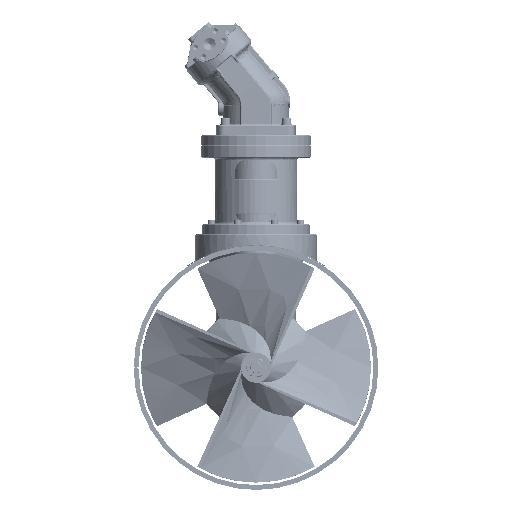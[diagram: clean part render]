
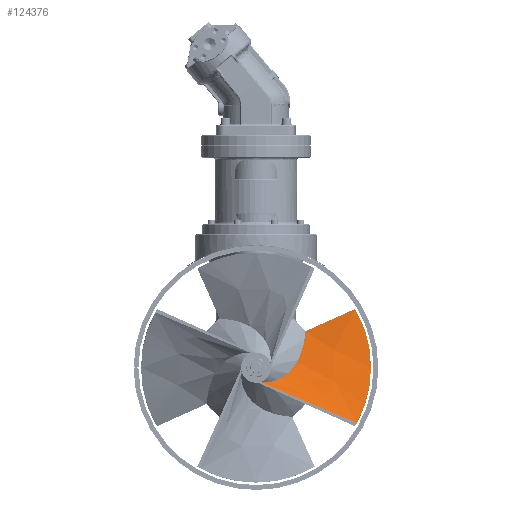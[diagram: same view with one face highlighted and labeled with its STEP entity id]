
A CAD part, left-side view. The second image highlights one B-rep face of the part: STEP entity #124376.
In plain terms, the highlighted free-form (B-spline) face has degree [3, 3] with [4, 4] control points.
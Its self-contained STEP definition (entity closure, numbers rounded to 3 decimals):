
#176=B_SPLINE_SURFACE_WITH_KNOTS('',3,3,((#250413,#250414,#250415,#250416),
(#250417,#250418,#250419,#250420),(#250421,#250422,#250423,#250424),(#250425,
#250426,#250427,#250428)),.UNSPECIFIED.,.F.,.F.,.F.,(4,4),(4,4),(0.,1.),
(0.039,1.),.UNSPECIFIED.);
#7526=B_SPLINE_CURVE_WITH_KNOTS('',3,(#250377,#250378,#250379,#250380,#250381,
#250382,#250383,#250384,#250385,#250386,#250387,#250388),.UNSPECIFIED.,
 .F.,.F.,(4,2,2,2,2,4),(-17.377,-13.442,-9.581,
-5.586,-2.51,0.),.UNSPECIFIED.);
#7528=B_SPLINE_CURVE_WITH_KNOTS('',3,(#250430,#250431,#250432,#250433,#250434,
#250435),.UNSPECIFIED.,.F.,.F.,(4,2,4),(-17.187,-6.295,
0.),.UNSPECIFIED.);
#7529=B_SPLINE_CURVE_WITH_KNOTS('',3,(#250438,#250439,#250440,#250441,#250442,
#250443,#250444,#250445),.UNSPECIFIED.,.F.,.F.,(4,2,2,4),(-33.249,
-26.454,-18.738,-17.187),.UNSPECIFIED.);
#14638=FACE_OUTER_BOUND('',#21396,.T.);
#21396=EDGE_LOOP('',(#106990,#106991,#106992,#106993,#106994));
#31819=LINE('',#250412,#41781);
#31820=LINE('',#250437,#41782);
#41781=VECTOR('',#163366,327.094);
#41782=VECTOR('',#163367,324.264);
#57683=VERTEX_POINT('',#250375);
#57684=VERTEX_POINT('',#250376);
#57687=VERTEX_POINT('',#250408);
#57689=VERTEX_POINT('',#250429);
#57690=VERTEX_POINT('',#250436);
#74479=EDGE_CURVE('',#57683,#57684,#7526,.T.);
#74485=EDGE_CURVE('',#57683,#57687,#31819,.T.);
#74486=EDGE_CURVE('',#57689,#57687,#7528,.T.);
#74487=EDGE_CURVE('',#57684,#57690,#31820,.T.);
#74488=EDGE_CURVE('',#57690,#57689,#7529,.T.);
#106990=ORIENTED_EDGE('',*,*,#74486,.T.);
#106991=ORIENTED_EDGE('',*,*,#74485,.F.);
#106992=ORIENTED_EDGE('',*,*,#74479,.T.);
#106993=ORIENTED_EDGE('',*,*,#74487,.T.);
#106994=ORIENTED_EDGE('',*,*,#74488,.T.);
#124376=ADVANCED_FACE('',(#14638),#176,.F.);
#163366=DIRECTION('',(0.,-0.913,0.409));
#163367=DIRECTION('',(0.,-0.921,-0.391));
#250375=CARTESIAN_POINT('',(-186.088,-126.408,95.912));
#250376=CARTESIAN_POINT('',(-306.088,-9.969,-35.638));
#250377=CARTESIAN_POINT('Ctrl Pts',(-186.088,-126.408,
95.912));
#250378=CARTESIAN_POINT('Ctrl Pts',(-196.415,-125.39,
79.882));
#250379=CARTESIAN_POINT('Ctrl Pts',(-206.442,-122.943,
63.84));
#250380=CARTESIAN_POINT('Ctrl Pts',(-226.195,-113.716,
33.118));
#250381=CARTESIAN_POINT('Ctrl Pts',(-235.791,-107.071,
18.628));
#250382=CARTESIAN_POINT('Ctrl Pts',(-255.633,-88.312,
-7.472));
#250383=CARTESIAN_POINT('Ctrl Pts',(-264.903,-77.019,
-17.536));
#250384=CARTESIAN_POINT('Ctrl Pts',(-280.303,-55.646,
-29.856));
#250385=CARTESIAN_POINT('Ctrl Pts',(-286.977,-45.46,
-33.618));
#250386=CARTESIAN_POINT('Ctrl Pts',(-298.404,-25.948,
-36.771));
#250387=CARTESIAN_POINT('Ctrl Pts',(-302.808,-17.593,
-36.704));
#250388=CARTESIAN_POINT('Ctrl Pts',(-306.088,-9.969,
-35.638));
#250408=CARTESIAN_POINT('',(-186.088,-255.27,153.65));
#250412=CARTESIAN_POINT('',(-186.088,1.605,38.555));
#250413=CARTESIAN_POINT('Ctrl Pts',(-306.088,-9.969,
-35.638));
#250414=CARTESIAN_POINT('Ctrl Pts',(-306.088,-105.611,
-76.224));
#250415=CARTESIAN_POINT('Ctrl Pts',(-306.088,-201.253,
-116.81));
#250416=CARTESIAN_POINT('Ctrl Pts',(-306.088,-296.895,
-157.396));
#250417=CARTESIAN_POINT('Ctrl Pts',(-266.088,-9.969,
-9.179));
#250418=CARTESIAN_POINT('Ctrl Pts',(-266.088,-105.611,
-21.952));
#250419=CARTESIAN_POINT('Ctrl Pts',(-266.088,-201.253,
-34.724));
#250420=CARTESIAN_POINT('Ctrl Pts',(-266.088,-296.895,
-47.497));
#250421=CARTESIAN_POINT('Ctrl Pts',(-226.088,-9.969,
17.281));
#250422=CARTESIAN_POINT('Ctrl Pts',(-226.088,-105.611,
32.321));
#250423=CARTESIAN_POINT('Ctrl Pts',(-226.088,-201.253,
47.361));
#250424=CARTESIAN_POINT('Ctrl Pts',(-226.088,-296.895,
62.402));
#250425=CARTESIAN_POINT('Ctrl Pts',(-186.088,-9.969,
43.741));
#250426=CARTESIAN_POINT('Ctrl Pts',(-186.088,-105.611,
86.594));
#250427=CARTESIAN_POINT('Ctrl Pts',(-186.088,-201.253,
129.447));
#250428=CARTESIAN_POINT('Ctrl Pts',(-186.088,-296.895,
172.301));
#250429=CARTESIAN_POINT('',(-248.216,-296.895,1.605));
#250430=CARTESIAN_POINT('Ctrl Pts',(-248.216,-296.895,
1.605));
#250431=CARTESIAN_POINT('Ctrl Pts',(-235.83,-296.895,
35.634));
#250432=CARTESIAN_POINT('Ctrl Pts',(-223.597,-291.072,
69.315));
#250433=CARTESIAN_POINT('Ctrl Pts',(-202.588,-273.286,
119.584));
#250434=CARTESIAN_POINT('Ctrl Pts',(-194.624,-265.033,
137.155));
#250435=CARTESIAN_POINT('Ctrl Pts',(-186.088,-255.27,
153.65));
#250436=CARTESIAN_POINT('',(-306.088,-260.182,-141.817));
#250437=CARTESIAN_POINT('',(-306.088,1.605,-30.727));
#250438=CARTESIAN_POINT('Ctrl Pts',(-306.088,-260.182,
-141.817));
#250439=CARTESIAN_POINT('Ctrl Pts',(-297.035,-270.164,
-123.598));
#250440=CARTESIAN_POINT('Ctrl Pts',(-288.606,-278.314,
-104.202));
#250441=CARTESIAN_POINT('Ctrl Pts',(-271.162,-291.254,
-60.943));
#250442=CARTESIAN_POINT('Ctrl Pts',(-262.337,-295.361,
-37.106));
#250443=CARTESIAN_POINT('Ctrl Pts',(-251.747,-296.777,
-8.096));
#250444=CARTESIAN_POINT('Ctrl Pts',(-249.98,-296.895,-3.242));
#250445=CARTESIAN_POINT('Ctrl Pts',(-248.216,-296.895,
1.605));
